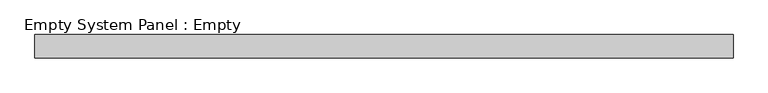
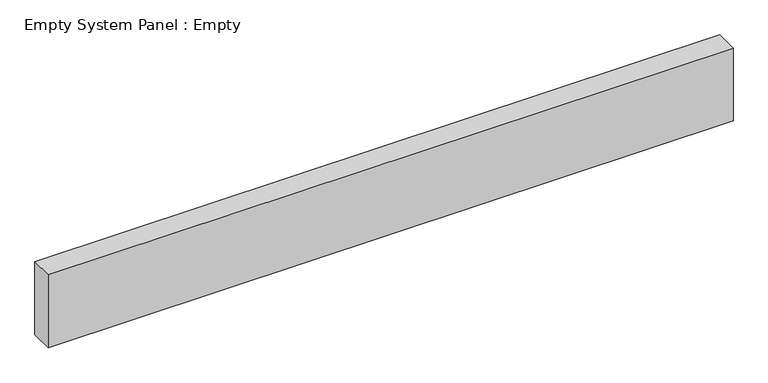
"""IFC4 building model written with IfcOpenShell, lengths in millimetres: plate geometry, Empty System Panel : Empty."""

from ifc_helpers import new_model, si_unit, origin, origin_with_axes, place, context, project, spatial, polyline, outline, extrude, source, transform, mapped, element, save


def empty_system_panel_empty_1d5742cf(model_context):
    return source(origin(), model_context, "Body", "SweptSolid", [
        extrude(outline(polyline([(1500.0, -50.0), (-1500.0, -50.0), (-1500.0, 50.0), (1500.0, 50.0), (1500.0, -50.0)])), origin_with_axes(), (0.0, 0.0, 1.0), 337.0),
    ])


if __name__ == "__main__":
    model = new_model("IFC4")
    model_context = context("Model", 3, world=origin())
    ifc_project = project(units=[si_unit("LENGTHUNIT", "METRE", prefix="MILLI")], contexts=[model_context])
    site = spatial("IfcSite", under=ifc_project)
    building = spatial("IfcBuilding", under=site)
    placement = place(None, origin())
    empty_system_panel_empty_shape = empty_system_panel_empty_1d5742cf(model_context)
    element("IfcPlate", 1, ObjectType="Empty System Panel : Empty", at=placement, inside=building, context=model_context, shape_type="MappedRepresentation", body=[
        mapped(empty_system_panel_empty_shape, transform((0.0, 0.0, 0.0), x_axis=(1.0, 0.0, 0.0), y_axis=(0.0, 1.0, 0.0), z_axis=(0.0, 0.0, 1.0))),
    ])
    save(model, "model.ifc")
